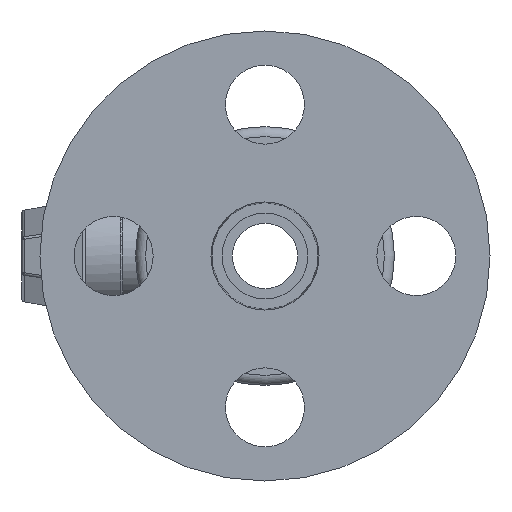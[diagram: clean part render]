
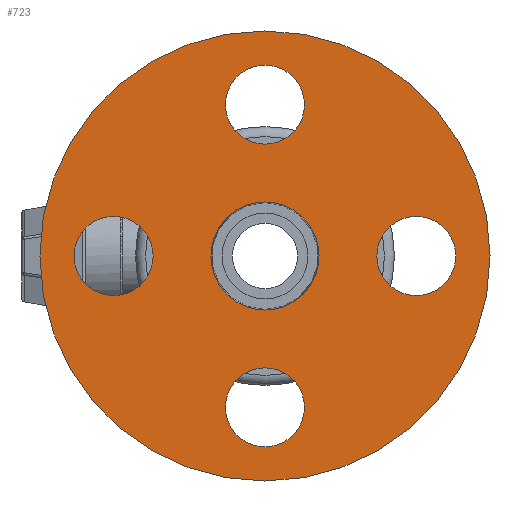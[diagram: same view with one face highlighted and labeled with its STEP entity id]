
A CAD part, left-side view. The second image highlights one B-rep face of the part: STEP entity #723.
In plain terms, the highlighted planar face has unit normal (-1, 0, 0).
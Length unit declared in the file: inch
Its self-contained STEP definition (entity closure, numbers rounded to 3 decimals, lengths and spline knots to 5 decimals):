
#11 = AXIS2_PLACEMENT_3D ( 'NONE', #722, #2197, #2908 ) ;
#140 = DIRECTION ( 'NONE',  ( -1., 0., 0. ) ) ;
#176 = CARTESIAN_POINT ( 'NONE',  ( -3.1875, 1.1875, 0. ) ) ;
#177 = EDGE_CURVE ( 'NONE', #751, #751, #1352, .T. ) ;
#198 = DIRECTION ( 'NONE',  ( 0., -1., 0. ) ) ;
#264 = FACE_OUTER_BOUND ( 'NONE', #279, .T. ) ;
#276 = VERTEX_POINT ( 'NONE', #732 ) ;
#279 = EDGE_LOOP ( 'NONE', ( #1438 ) ) ;
#350 = DIRECTION ( 'NONE',  ( 1., 0., 0. ) ) ;
#366 = VERTEX_POINT ( 'NONE', #582 ) ;
#369 = EDGE_CURVE ( 'NONE', #276, #276, #1982, .T. ) ;
#398 = EDGE_CURVE ( 'NONE', #1216, #1216, #789, .T. ) ;
#426 = DIRECTION ( 'NONE',  ( 1., 0., 0. ) ) ;
#427 = CIRCLE ( 'NONE', #11, 0.31 ) ;
#444 = ORIENTED_EDGE ( 'NONE', *, *, #369, .F. ) ;
#447 = AXIS2_PLACEMENT_3D ( 'NONE', #2630, #1455, #1187 ) ;
#582 = CARTESIAN_POINT ( 'NONE',  ( -3.1875, 0.8775, 0. ) ) ;
#588 = CARTESIAN_POINT ( 'NONE',  ( -3.1875, 0., 0. ) ) ;
#634 = CARTESIAN_POINT ( 'NONE',  ( -3.1875, 0., 0. ) ) ;
#649 = AXIS2_PLACEMENT_3D ( 'NONE', #588, #350, #2979 ) ;
#694 = CIRCLE ( 'NONE', #447, 0.31 ) ;
#714 = EDGE_LOOP ( 'NONE', ( #444 ) ) ;
#722 = CARTESIAN_POINT ( 'NONE',  ( -3.1875, -1.1875, 0. ) ) ;
#723 = ADVANCED_FACE ( 'NONE', ( #1482, #1446, #2638, #1464, #2402, #264 ), #1742, .T. ) ;
#732 = CARTESIAN_POINT ( 'NONE',  ( -3.1875, 0., -0.8775 ) ) ;
#745 = EDGE_LOOP ( 'NONE', ( #3084 ) ) ;
#751 = VERTEX_POINT ( 'NONE', #2416 ) ;
#789 = CIRCLE ( 'NONE', #649, 1.76562 ) ;
#825 = DIRECTION ( 'NONE',  ( 0., -1., 0. ) ) ;
#936 = CIRCLE ( 'NONE', #2574, 0.31 ) ;
#1187 = DIRECTION ( 'NONE',  ( 0., 0., -1. ) ) ;
#1216 = VERTEX_POINT ( 'NONE', #2885 ) ;
#1261 = CARTESIAN_POINT ( 'NONE',  ( -3.1875, 1.76562, 0. ) ) ;
#1352 = CIRCLE ( 'NONE', #2125, 0.424 ) ;
#1357 = EDGE_LOOP ( 'NONE', ( #1444 ) ) ;
#1359 = EDGE_LOOP ( 'NONE', ( #1479 ) ) ;
#1438 = ORIENTED_EDGE ( 'NONE', *, *, #398, .F. ) ;
#1444 = ORIENTED_EDGE ( 'NONE', *, *, #1641, .F. ) ;
#1446 = FACE_BOUND ( 'NONE', #1357, .T. ) ;
#1455 = DIRECTION ( 'NONE',  ( -1., 0., 0. ) ) ;
#1464 = FACE_BOUND ( 'NONE', #1359, .T. ) ;
#1479 = ORIENTED_EDGE ( 'NONE', *, *, #2682, .F. ) ;
#1482 = FACE_BOUND ( 'NONE', #714, .T. ) ;
#1523 = CARTESIAN_POINT ( 'NONE',  ( -3.1875, -0.8775, 0. ) ) ;
#1559 = CARTESIAN_POINT ( 'NONE',  ( -3.1875, 0., 0.8775 ) ) ;
#1613 = DIRECTION ( 'NONE',  ( -1., 0., 0. ) ) ;
#1641 = EDGE_CURVE ( 'NONE', #2520, #2520, #427, .T. ) ;
#1742 = PLANE ( 'NONE',  #2500 ) ;
#1982 = CIRCLE ( 'NONE', #2675, 0.31 ) ;
#2064 = EDGE_CURVE ( 'NONE', #2972, #2972, #694, .T. ) ;
#2125 = AXIS2_PLACEMENT_3D ( 'NONE', #634, #426, #2324 ) ;
#2197 = DIRECTION ( 'NONE',  ( -1., 0., 0. ) ) ;
#2324 = DIRECTION ( 'NONE',  ( 0., 1., 0. ) ) ;
#2402 = FACE_BOUND ( 'NONE', #745, .T. ) ;
#2416 = CARTESIAN_POINT ( 'NONE',  ( -3.1875, 0.424, 0. ) ) ;
#2437 = DIRECTION ( 'NONE',  ( -1., 0., 0. ) ) ;
#2500 = AXIS2_PLACEMENT_3D ( 'NONE', #1261, #2437, #825 ) ;
#2520 = VERTEX_POINT ( 'NONE', #1523 ) ;
#2574 = AXIS2_PLACEMENT_3D ( 'NONE', #176, #1613, #198 ) ;
#2598 = EDGE_LOOP ( 'NONE', ( #2635 ) ) ;
#2630 = CARTESIAN_POINT ( 'NONE',  ( -3.1875, 0., 1.1875 ) ) ;
#2635 = ORIENTED_EDGE ( 'NONE', *, *, #2064, .F. ) ;
#2638 = FACE_BOUND ( 'NONE', #2598, .T. ) ;
#2675 = AXIS2_PLACEMENT_3D ( 'NONE', #2960, #140, #2721 ) ;
#2682 = EDGE_CURVE ( 'NONE', #366, #366, #936, .T. ) ;
#2721 = DIRECTION ( 'NONE',  ( 0., 0., 1. ) ) ;
#2885 = CARTESIAN_POINT ( 'NONE',  ( -3.1875, 1.76562, 0. ) ) ;
#2908 = DIRECTION ( 'NONE',  ( 0., 1., 0. ) ) ;
#2960 = CARTESIAN_POINT ( 'NONE',  ( -3.1875, 0., -1.1875 ) ) ;
#2972 = VERTEX_POINT ( 'NONE', #1559 ) ;
#2979 = DIRECTION ( 'NONE',  ( 0., 1., 0. ) ) ;
#3084 = ORIENTED_EDGE ( 'NONE', *, *, #177, .T. ) ;
